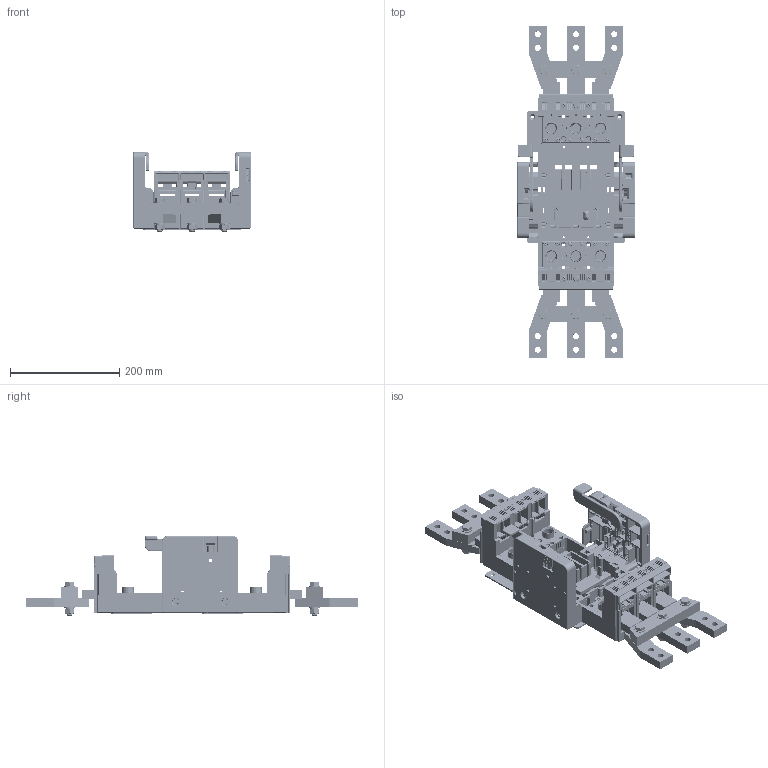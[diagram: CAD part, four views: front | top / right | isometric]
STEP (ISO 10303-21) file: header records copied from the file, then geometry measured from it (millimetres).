
FILE_DESCRIPTION (( 'STEP AP214' ), '1' );
FILE_NAME ('ZV-BH-0630-300__CS-BH-JT75__OD-BH-MT75.step', '2011-09-07T09:02:00', ( 'Radek Veselý' ), ( 'Siemens and Partners' ), 'SwSTEP 2.0', 'SolidWorks 2006303', '' );
FILE_SCHEMA (( 'AUTOMOTIVE_DESIGN' ));
Length unit declared in the file: millimetre
Products named in the file (1): ZV-BH-0630-300__CS-BH-JT75__OD-BH-MT75
Bounding box: 215 x 608 x 146 mm (x, y, z)
Volume: 2238690 mm3; surface area: 1118793.6 mm2
Topology: 94 solids, 94 shells, 10048 faces, 26403 edges, 16592 vertices
Faces by surface type: plane 6030, cylinder 2854, cone 382, torus 380, sphere 222, bspline 180
Entity records: 423629 total; most frequent: CARTESIAN_POINT 65443, ORIENTED_EDGE 52302, DIRECTION 50459, EDGE_CURVE 26151, LINE 18167, VECTOR 18167, VERTEX_POINT 16592, AXIS2_PLACEMENT_3D 16146
